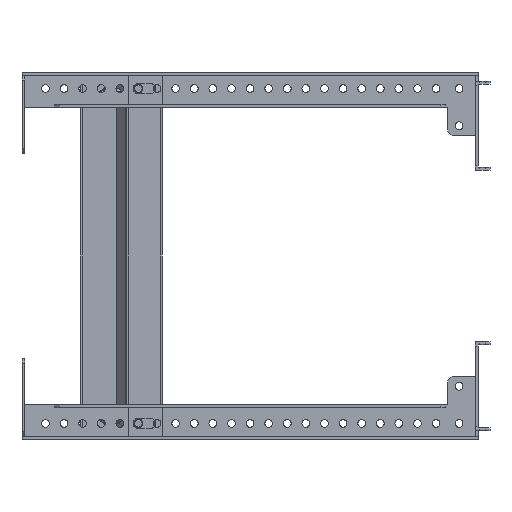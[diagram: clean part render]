
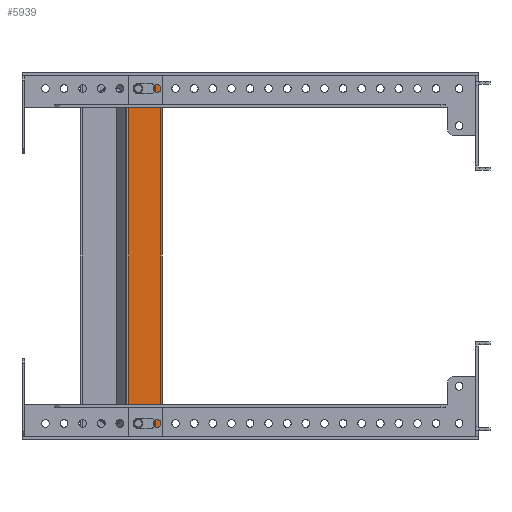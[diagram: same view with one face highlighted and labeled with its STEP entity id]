
A CAD part, front view. The second image highlights one B-rep face of the part: STEP entity #5939.
In plain terms, the highlighted planar face has unit normal (0, -1, 0).
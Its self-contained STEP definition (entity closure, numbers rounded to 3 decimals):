
#109 = CARTESIAN_POINT ( 'NONE',  ( 1120.27, -253.815, -112.5 ) ) ;
#746 = CARTESIAN_POINT ( 'NONE',  ( 1120.27, -253.815, 116. ) ) ;
#896 = CARTESIAN_POINT ( 'NONE',  ( 1112.27, -253.815, 109. ) ) ;
#984 = ORIENTED_EDGE ( 'NONE', *, *, #32507, .F. ) ;
#1056 = VECTOR ( 'NONE', #23268, 1000. ) ;
#1705 = EDGE_CURVE ( 'NONE', #18798, #12233, #31636, .T. ) ;
#1804 = EDGE_LOOP ( 'NONE', ( #5037, #984, #13245, #27629 ) ) ;
#1856 = VECTOR ( 'NONE', #5200, 1000. ) ;
#2417 = EDGE_CURVE ( 'NONE', #29753, #15523, #24238, .T. ) ;
#2726 = CARTESIAN_POINT ( 'NONE',  ( 1112.27, -253.815, -116. ) ) ;
#4703 = DIRECTION ( 'NONE',  ( 0., -1., 0. ) ) ;
#4743 = CARTESIAN_POINT ( 'NONE',  ( 1112.27, -253.815, -109. ) ) ;
#5037 = ORIENTED_EDGE ( 'NONE', *, *, #2417, .F. ) ;
#5200 = DIRECTION ( 'NONE',  ( 1., 0., 0. ) ) ;
#5304 = CARTESIAN_POINT ( 'NONE',  ( 1112.27, -253.815, -112.5 ) ) ;
#5350 = CIRCLE ( 'NONE', #22168, 3.5 ) ;
#5623 = VECTOR ( 'NONE', #6065, 1000. ) ;
#5939 = ADVANCED_FACE ( 'NONE', ( #13144, #21285, #23500 ), #31649, .F. ) ;
#6022 = CARTESIAN_POINT ( 'NONE',  ( 1112.27, -253.815, -116. ) ) ;
#6065 = DIRECTION ( 'NONE',  ( 1., 0., 0. ) ) ;
#7306 = VERTEX_POINT ( 'NONE', #11814 ) ;
#7822 = DIRECTION ( 'NONE',  ( -1., 0., 0. ) ) ;
#7922 = VERTEX_POINT ( 'NONE', #20732 ) ;
#8276 = DIRECTION ( 'NONE',  ( 0., 1., 0. ) ) ;
#8652 = ORIENTED_EDGE ( 'NONE', *, *, #24820, .F. ) ;
#8905 = DIRECTION ( 'NONE',  ( 0., 0., 1. ) ) ;
#9102 = EDGE_CURVE ( 'NONE', #27799, #22330, #5350, .T. ) ;
#9339 = ORIENTED_EDGE ( 'NONE', *, *, #23532, .F. ) ;
#9420 = DIRECTION ( 'NONE',  ( -1., 0., 0. ) ) ;
#9746 = VERTEX_POINT ( 'NONE', #4743 ) ;
#9826 = CARTESIAN_POINT ( 'NONE',  ( 1112.27, -253.815, 109. ) ) ;
#10086 = CARTESIAN_POINT ( 'NONE',  ( 1108.77, -253.815, 112.5 ) ) ;
#10278 = VERTEX_POINT ( 'NONE', #18107 ) ;
#10322 = DIRECTION ( 'NONE',  ( -1., 0., 0. ) ) ;
#10325 = EDGE_CURVE ( 'NONE', #12233, #7306, #26258, .T. ) ;
#10605 = DIRECTION ( 'NONE',  ( 0., 1., 0. ) ) ;
#10849 = CARTESIAN_POINT ( 'NONE',  ( 1150.113, -253.815, -122.5 ) ) ;
#10877 = EDGE_LOOP ( 'NONE', ( #32118, #14850, #8652, #9339, #13178 ) ) ;
#10902 = AXIS2_PLACEMENT_3D ( 'NONE', #31537, #8276, #18632 ) ;
#11267 = CARTESIAN_POINT ( 'NONE',  ( 1128.272, -253.815, -125.859 ) ) ;
#11450 = CARTESIAN_POINT ( 'NONE',  ( 1105.77, -253.815, 122.5 ) ) ;
#11738 = ORIENTED_EDGE ( 'NONE', *, *, #10325, .T. ) ;
#11814 = CARTESIAN_POINT ( 'NONE',  ( 1112.27, -253.815, 116. ) ) ;
#11815 = CARTESIAN_POINT ( 'NONE',  ( 1112.27, -253.815, -112.5 ) ) ;
#12233 = VERTEX_POINT ( 'NONE', #10086 ) ;
#12523 = DIRECTION ( 'NONE',  ( -1., 0., 0. ) ) ;
#13144 = FACE_OUTER_BOUND ( 'NONE', #1804, .T. ) ;
#13178 = ORIENTED_EDGE ( 'NONE', *, *, #9102, .F. ) ;
#13200 = VERTEX_POINT ( 'NONE', #17080 ) ;
#13245 = ORIENTED_EDGE ( 'NONE', *, *, #23325, .F. ) ;
#13889 = CARTESIAN_POINT ( 'NONE',  ( 1128.272, -253.815, 122.5 ) ) ;
#14387 = CARTESIAN_POINT ( 'NONE',  ( 1105.77, -253.815, 122.5 ) ) ;
#14584 = ORIENTED_EDGE ( 'NONE', *, *, #1705, .T. ) ;
#14850 = ORIENTED_EDGE ( 'NONE', *, *, #25686, .F. ) ;
#14974 = DIRECTION ( 'NONE',  ( -1., 0., 0. ) ) ;
#15260 = LINE ( 'NONE', #9826, #29944 ) ;
#15469 = CARTESIAN_POINT ( 'NONE',  ( 1112.27, -253.815, -109. ) ) ;
#15475 = CARTESIAN_POINT ( 'NONE',  ( 1112.27, -253.815, 112.5 ) ) ;
#15523 = VERTEX_POINT ( 'NONE', #13889 ) ;
#15558 = AXIS2_PLACEMENT_3D ( 'NONE', #28919, #10605, #20962 ) ;
#15831 = DIRECTION ( 'NONE',  ( -1., 0., 0. ) ) ;
#16332 = DIRECTION ( 'NONE',  ( 0., -1., 0. ) ) ;
#16560 = ORIENTED_EDGE ( 'NONE', *, *, #26828, .T. ) ;
#16567 = EDGE_CURVE ( 'NONE', #23554, #18798, #15260, .T. ) ;
#17080 = CARTESIAN_POINT ( 'NONE',  ( 1108.77, -253.815, -112.5 ) ) ;
#17280 = VERTEX_POINT ( 'NONE', #6022 ) ;
#17655 = VECTOR ( 'NONE', #7822, 1000. ) ;
#18107 = CARTESIAN_POINT ( 'NONE',  ( 1105.77, -253.815, -122.5 ) ) ;
#18376 = CIRCLE ( 'NONE', #30854, 3.5 ) ;
#18632 = DIRECTION ( 'NONE',  ( -1., 0., 0. ) ) ;
#18798 = VERTEX_POINT ( 'NONE', #896 ) ;
#19125 = LINE ( 'NONE', #2726, #1056 ) ;
#19597 = CIRCLE ( 'NONE', #10902, 3.5 ) ;
#20070 = AXIS2_PLACEMENT_3D ( 'NONE', #11815, #30136, #9420 ) ;
#20167 = EDGE_CURVE ( 'NONE', #7922, #15523, #32163, .T. ) ;
#20723 = LINE ( 'NONE', #15469, #17655 ) ;
#20732 = CARTESIAN_POINT ( 'NONE',  ( 1128.272, -253.815, -122.5 ) ) ;
#20819 = LINE ( 'NONE', #28940, #1856 ) ;
#20962 = DIRECTION ( 'NONE',  ( 1., 0., 0. ) ) ;
#21140 = CIRCLE ( 'NONE', #20070, 3.5 ) ;
#21285 = FACE_BOUND ( 'NONE', #10877, .T. ) ;
#21424 = VERTEX_POINT ( 'NONE', #746 ) ;
#21991 = EDGE_LOOP ( 'NONE', ( #14584, #11738, #29527, #16560, #30749 ) ) ;
#22168 = AXIS2_PLACEMENT_3D ( 'NONE', #109, #4703, #12523 ) ;
#22330 = VERTEX_POINT ( 'NONE', #27947 ) ;
#23268 = DIRECTION ( 'NONE',  ( 1., 0., 0. ) ) ;
#23325 = EDGE_CURVE ( 'NONE', #7922, #10278, #29019, .T. ) ;
#23500 = FACE_BOUND ( 'NONE', #21991, .T. ) ;
#23532 = EDGE_CURVE ( 'NONE', #22330, #9746, #20723, .T. ) ;
#23554 = VERTEX_POINT ( 'NONE', #23588 ) ;
#23569 = CARTESIAN_POINT ( 'NONE',  ( 1105.77, -253.815, -122.5 ) ) ;
#23588 = CARTESIAN_POINT ( 'NONE',  ( 1120.27, -253.815, 109. ) ) ;
#23598 = VECTOR ( 'NONE', #26633, 1000. ) ;
#24238 = LINE ( 'NONE', #14387, #5623 ) ;
#24820 = EDGE_CURVE ( 'NONE', #9746, #13200, #18376, .T. ) ;
#25263 = EDGE_CURVE ( 'NONE', #17280, #27799, #19125, .T. ) ;
#25686 = EDGE_CURVE ( 'NONE', #13200, #17280, #21140, .T. ) ;
#26075 = DIRECTION ( 'NONE',  ( -1., 0., 0. ) ) ;
#26258 = CIRCLE ( 'NONE', #31149, 3.5 ) ;
#26633 = DIRECTION ( 'NONE',  ( -1., 0., 0. ) ) ;
#26828 = EDGE_CURVE ( 'NONE', #21424, #23554, #19597, .T. ) ;
#26846 = VECTOR ( 'NONE', #29332, 1000. ) ;
#27076 = VECTOR ( 'NONE', #8905, 1000. ) ;
#27478 = CARTESIAN_POINT ( 'NONE',  ( 1120.27, -253.815, -116. ) ) ;
#27629 = ORIENTED_EDGE ( 'NONE', *, *, #20167, .T. ) ;
#27799 = VERTEX_POINT ( 'NONE', #27478 ) ;
#27947 = CARTESIAN_POINT ( 'NONE',  ( 1120.27, -253.815, -109. ) ) ;
#28624 = DIRECTION ( 'NONE',  ( 0., 1., 0. ) ) ;
#28919 = CARTESIAN_POINT ( 'NONE',  ( 1150.737, -253.815, 0. ) ) ;
#28940 = CARTESIAN_POINT ( 'NONE',  ( 1112.27, -253.815, 116. ) ) ;
#29019 = LINE ( 'NONE', #10849, #23598 ) ;
#29332 = DIRECTION ( 'NONE',  ( 0., 0., 1. ) ) ;
#29527 = ORIENTED_EDGE ( 'NONE', *, *, #31148, .T. ) ;
#29753 = VERTEX_POINT ( 'NONE', #11450 ) ;
#29944 = VECTOR ( 'NONE', #10322, 1000. ) ;
#30028 = AXIS2_PLACEMENT_3D ( 'NONE', #15475, #33138, #14974 ) ;
#30136 = DIRECTION ( 'NONE',  ( 0., -1., 0. ) ) ;
#30707 = CARTESIAN_POINT ( 'NONE',  ( 1112.27, -253.815, 112.5 ) ) ;
#30749 = ORIENTED_EDGE ( 'NONE', *, *, #16567, .T. ) ;
#30854 = AXIS2_PLACEMENT_3D ( 'NONE', #5304, #16332, #15831 ) ;
#31148 = EDGE_CURVE ( 'NONE', #7306, #21424, #20819, .T. ) ;
#31149 = AXIS2_PLACEMENT_3D ( 'NONE', #30707, #28624, #26075 ) ;
#31224 = LINE ( 'NONE', #23569, #26846 ) ;
#31537 = CARTESIAN_POINT ( 'NONE',  ( 1120.27, -253.815, 112.5 ) ) ;
#31636 = CIRCLE ( 'NONE', #30028, 3.5 ) ;
#31649 = PLANE ( 'NONE',  #15558 ) ;
#32118 = ORIENTED_EDGE ( 'NONE', *, *, #25263, .F. ) ;
#32163 = LINE ( 'NONE', #11267, #27076 ) ;
#32507 = EDGE_CURVE ( 'NONE', #10278, #29753, #31224, .T. ) ;
#33138 = DIRECTION ( 'NONE',  ( 0., 1., 0. ) ) ;
